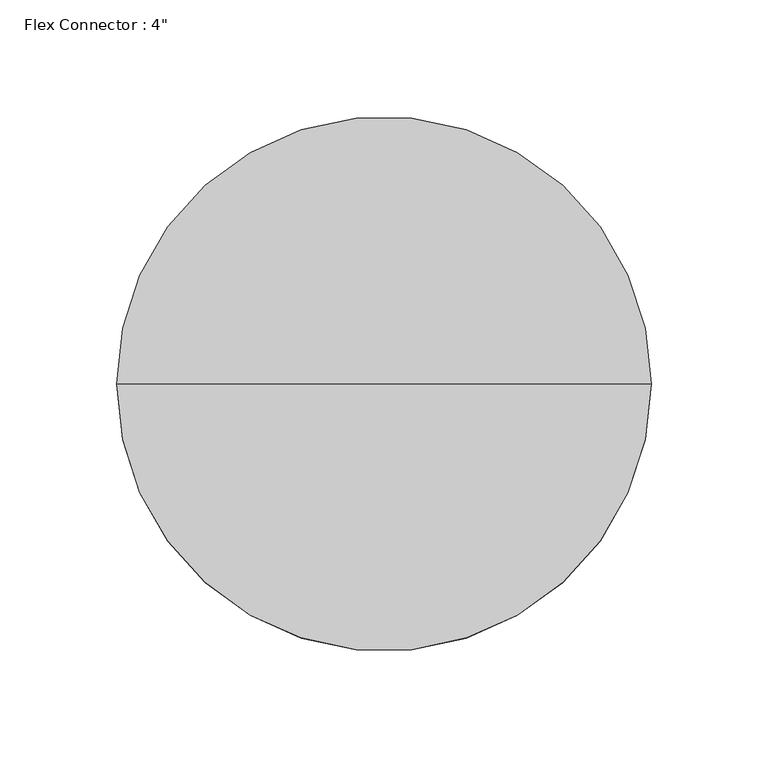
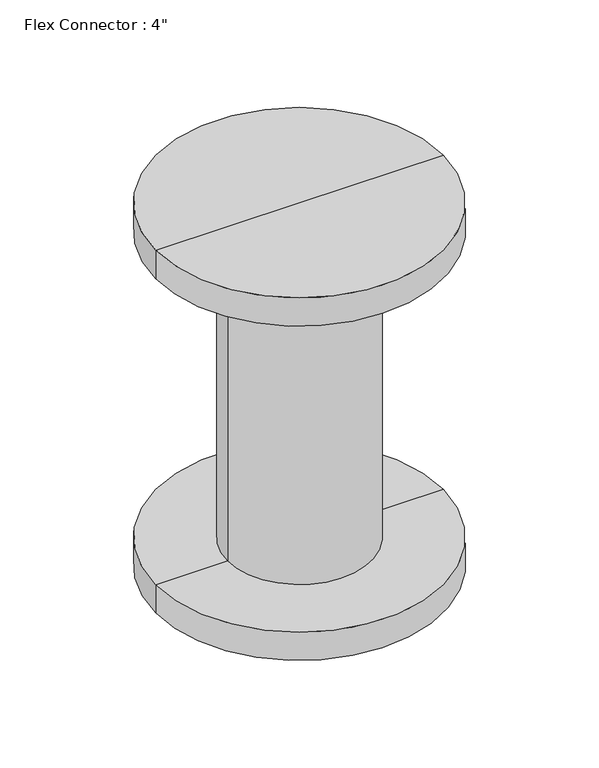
"""IFC4 building model written with IfcOpenShell, lengths in millimetres: valve geometry."""

from ifc_helpers import new_model, si_unit, frame, origin, place, context, project, spatial, circle_curve, source, transform, mapped, element, save
from ifc_brep_helpers import plane_surface, cylinder_surface, advanced_brep


def valve_ee9f1514(model_context):
    return source(origin(), model_context, "Body", "AdvancedBrep", [
        advanced_brep(
        [(57.15, 0.0, 23.8125), (-57.15, 0.0, 23.8125), (-57.15, 0.0, 280.9875), (57.15, 0.0, 280.9875), (0.0, 0.0, 23.8125), (0.0, 0.0, 280.9875)],
        [
            (0, 1, circle_curve(frame((0.0, 0.0, 23.8125), z_axis=(0.0, 0.0, 1.0), x_axis=(-1.0, 0.0, 0.0)), 57.15)),
            (1, 2),
            (2, 3, circle_curve(frame((0.0, 0.0, 280.9875), z_axis=(0.0, 0.0, -1.0), x_axis=(-1.0, 0.0, 0.0)), 57.15)),
            (3, 0),
            (1, 0, circle_curve(frame((0.0, 0.0, 23.8125), z_axis=(0.0, 0.0, 1.0), x_axis=(-1.0, 0.0, 0.0)), 57.15)),
            (3, 2, circle_curve(frame((0.0, 0.0, 280.9875), z_axis=(0.0, 0.0, -1.0), x_axis=(-1.0, 0.0, 0.0)), 57.15)),
            (4, 1),
            (0, 4),
            (2, 5),
            (5, 3),
        ],
        [
            cylinder_surface(frame((0.0, 0.0, 2609.0581012), z_axis=(0.0, 0.0, -1.0), x_axis=(-1.0, 0.0, 0.0)), 57.15),
            plane_surface(frame((0.0, 0.0, 23.8125), z_axis=(0.0, 0.0, -1.0), x_axis=(-1.0, 0.0, 0.0))),
            plane_surface(frame((0.0, 0.0, 280.9875), z_axis=(0.0, 0.0, 1.0), x_axis=(-1.0, 0.0, 0.0))),
        ],
        [
            (0, [[1, 2, 3, 4]]),
            (0, [[5, -4, 6, -2]]),
            (1, [[7, -1, 8]]),
            (1, [[-8, -5, -7]]),
            (2, [[-3, 9, 10]]),
            (2, [[-6, -10, -9]]),
        ],
    ),
        advanced_brep(
        [(0.0, 0.0, 0.0), (-114.3, 0.0, 0.0), (114.3, 0.0, 0.0), (114.3, 0.0, 23.8125), (-114.3, 0.0, 23.8125), (0.0, 0.0, 23.8125)],
        [
            (0, 1),
            (1, 2, circle_curve(frame((0.0, 0.0, 0.0), z_axis=(0.0, 0.0, -1.0), x_axis=(-1.0, 0.0, 0.0)), 114.3)),
            (2, 0),
            (2, 1, circle_curve(frame((0.0, 0.0, 0.0), z_axis=(0.0, 0.0, -1.0), x_axis=(-1.0, 0.0, 0.0)), 114.3)),
            (3, 4, circle_curve(frame((0.0, 0.0, 23.8125), z_axis=(0.0, 0.0, 1.0), x_axis=(-1.0, 0.0, 0.0)), 114.3)),
            (4, 5),
            (5, 3),
            (4, 3, circle_curve(frame((0.0, 0.0, 23.8125), z_axis=(0.0, 0.0, 1.0), x_axis=(-1.0, 0.0, 0.0)), 114.3)),
            (1, 4),
            (3, 2),
        ],
        [
            plane_surface(frame((0.0, 0.0, 0.0), z_axis=(0.0, 0.0, -1.0), x_axis=(-1.0, 0.0, 0.0))),
            plane_surface(frame((0.0, 0.0, 23.8125), z_axis=(0.0, 0.0, 1.0), x_axis=(-1.0, 0.0, 0.0))),
            cylinder_surface(frame((0.0, 0.0, 2609.0581012), z_axis=(0.0, 0.0, -1.0), x_axis=(-1.0, 0.0, 0.0)), 114.3),
        ],
        [
            (0, [[1, 2, 3]]),
            (0, [[-3, 4, -1]]),
            (1, [[5, 6, 7]]),
            (1, [[8, -7, -6]]),
            (2, [[-2, 9, -5, 10]]),
            (2, [[-4, -10, -8, -9]]),
        ],
    ),
        advanced_brep(
        [(114.3, 0.0, 304.8), (-114.3, 0.0, 304.8), (0.0, 0.0, 304.8), (114.3, 0.0, 280.9875), (-114.3, 0.0, 280.9875), (0.0, 0.0, 280.9875)],
        [
            (0, 1, circle_curve(frame((0.0, 0.0, 304.8), z_axis=(0.0, 0.0, 1.0), x_axis=(-1.0, 0.0, 0.0)), 114.3)),
            (1, 2),
            (2, 0),
            (1, 0, circle_curve(frame((0.0, 0.0, 304.8), z_axis=(0.0, 0.0, 1.0), x_axis=(-1.0, 0.0, 0.0)), 114.3)),
            (3, 4, circle_curve(frame((0.0, 0.0, 280.9875), z_axis=(0.0, 0.0, 1.0), x_axis=(-1.0, 0.0, 0.0)), 114.3)),
            (4, 1),
            (0, 3),
            (4, 3, circle_curve(frame((0.0, 0.0, 280.9875), z_axis=(0.0, 0.0, 1.0), x_axis=(-1.0, 0.0, 0.0)), 114.3)),
            (5, 4),
            (3, 5),
        ],
        [
            plane_surface(frame((0.0, 0.0, 304.8), z_axis=(0.0, 0.0, 1.0), x_axis=(-1.0, 0.0, 0.0))),
            cylinder_surface(frame((0.0, 0.0, 2609.0581012), z_axis=(0.0, 0.0, -1.0), x_axis=(-1.0, 0.0, 0.0)), 114.3),
            plane_surface(frame((0.0, 0.0, 280.9875), z_axis=(0.0, 0.0, -1.0), x_axis=(-1.0, 0.0, 0.0))),
        ],
        [
            (0, [[1, 2, 3]]),
            (0, [[4, -3, -2]]),
            (1, [[5, 6, -1, 7]]),
            (1, [[8, -7, -4, -6]]),
            (2, [[9, -5, 10]]),
            (2, [[-10, -8, -9]]),
        ],
    ),
    ])


if __name__ == "__main__":
    model = new_model("IFC4")
    model_context = context("Model", 3, world=origin())
    ifc_project = project(units=[si_unit("LENGTHUNIT", "METRE", prefix="MILLI")], contexts=[model_context])
    site = spatial("IfcSite", under=ifc_project)
    building = spatial("IfcBuilding", under=site)
    placement = place(None, origin())
    valve_shape = valve_ee9f1514(model_context)
    element("IfcValve", 1, ObjectType="Flex Connector : 4\"", at=placement, inside=building, context=model_context, shape_type="MappedRepresentation", body=[
        mapped(valve_shape, transform((0.0, 0.0, 0.0), x_axis=(1.0, 0.0, 0.0), y_axis=(0.0, 1.0, 0.0), z_axis=(0.0, 0.0, 1.0))),
    ])
    save(model, "model.ifc")
